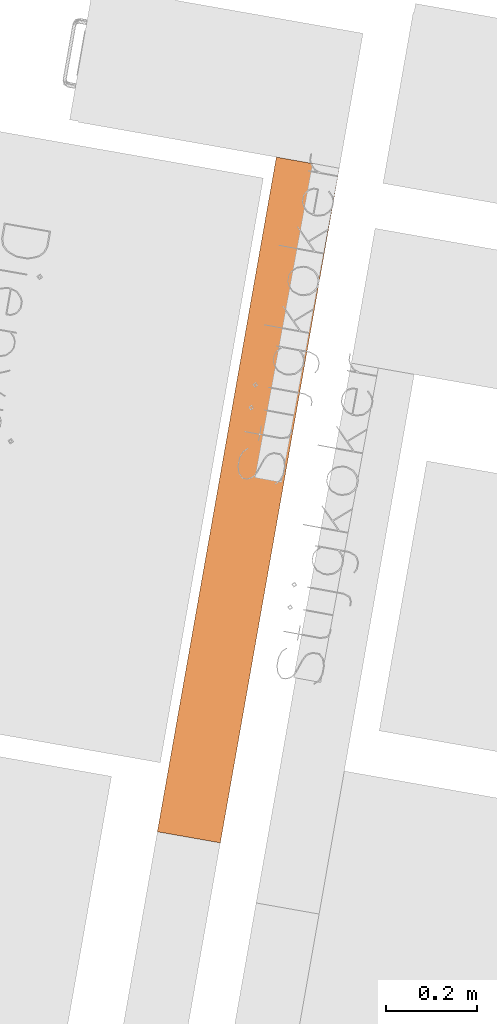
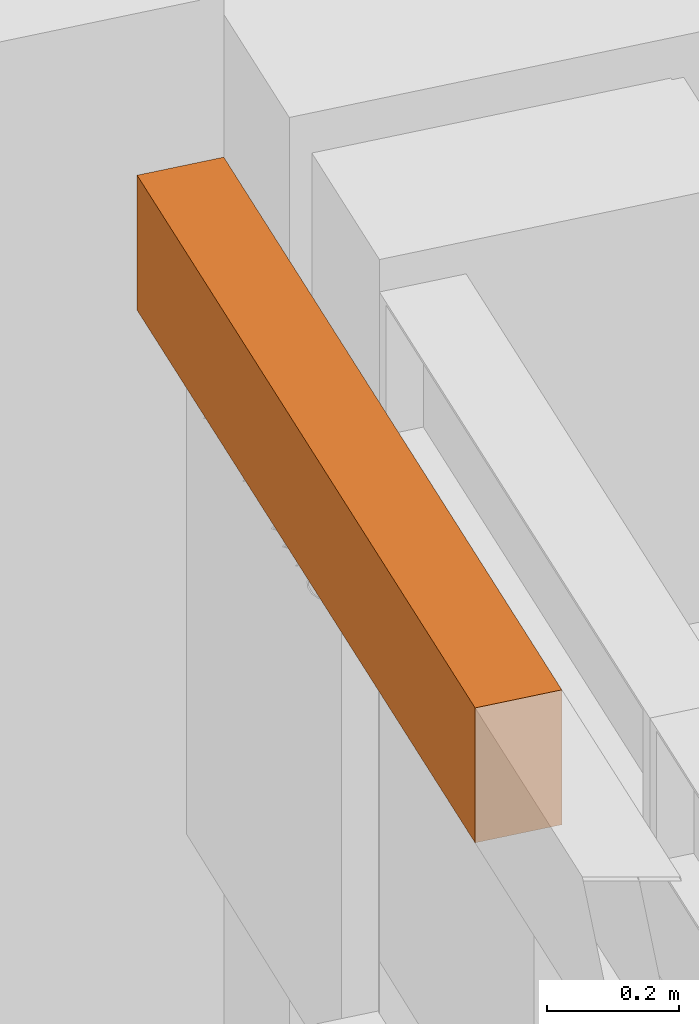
# One storey, part 17 of 43: 1 proxy.
"""IFC2X3 building model written with IfcOpenShell, lengths in metres."""

from ifc_helpers import new_model, entity, si_unit, converted_unit, derived_unit, direction, frame, frame_2d, origin, origin_2d_with_axis, place, context, subcontext, project, spatial, rectangle, extrude, source, transform, mapped, material, material_list, type_object, type_shapes, element, save


model = new_model("IFC2X3")

# Units and contexts
model_context = context("Model", 3, precision=1e-05, world=origin(), true_north=direction((6.12303176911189e-17, 1.0)))
body_context = subcontext(model_context, "Body", "Model", "MODEL_VIEW")
ifc_project = project(units=[si_unit("LENGTHUNIT", "METRE"), si_unit("AREAUNIT", "SQUARE_METRE"), si_unit("VOLUMEUNIT", "CUBIC_METRE"), converted_unit("PLANEANGLEUNIT", "DEGREE", entity("IfcRatioMeasure", 0.0174532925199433), si_unit("PLANEANGLEUNIT", "RADIAN"), dimensions=[0, 0, 0, 0, 0, 0, 0]), si_unit("MASSUNIT", "GRAM", prefix="KILO"), derived_unit("MASSDENSITYUNIT", [(si_unit("MASSUNIT", "GRAM", prefix="KILO"), 1), (si_unit("LENGTHUNIT", "METRE"), -3)]), derived_unit("MOMENTOFINERTIAUNIT", [(si_unit("LENGTHUNIT", "METRE"), 4)]), si_unit("TIMEUNIT", "SECOND"), si_unit("FREQUENCYUNIT", "HERTZ"), si_unit("THERMODYNAMICTEMPERATUREUNIT", "DEGREE_CELSIUS"), derived_unit("THERMALTRANSMITTANCEUNIT", [(si_unit("MASSUNIT", "GRAM", prefix="KILO"), 1), (si_unit("THERMODYNAMICTEMPERATUREUNIT", "KELVIN"), -1), (si_unit("TIMEUNIT", "SECOND"), -3)]), derived_unit("VOLUMETRICFLOWRATEUNIT", [(si_unit("LENGTHUNIT", "METRE"), 3), (si_unit("TIMEUNIT", "SECOND"), -1)]), si_unit("ELECTRICCURRENTUNIT", "AMPERE"), si_unit("ELECTRICVOLTAGEUNIT", "VOLT"), si_unit("POWERUNIT", "WATT"), si_unit("FORCEUNIT", "NEWTON", prefix="KILO"), si_unit("ILLUMINANCEUNIT", "LUX"), si_unit("LUMINOUSFLUXUNIT", "LUMEN"), si_unit("LUMINOUSINTENSITYUNIT", "CANDELA"), derived_unit("USERDEFINED", [(si_unit("MASSUNIT", "GRAM", prefix="KILO"), -1), (si_unit("LENGTHUNIT", "METRE"), -2), (si_unit("TIMEUNIT", "SECOND"), 3), (si_unit("LUMINOUSFLUXUNIT", "LUMEN"), 1)]), derived_unit("LINEARVELOCITYUNIT", [(si_unit("LENGTHUNIT", "METRE"), 1), (si_unit("TIMEUNIT", "SECOND"), -1)]), si_unit("PRESSUREUNIT", "PASCAL"), derived_unit("USERDEFINED", [(si_unit("LENGTHUNIT", "METRE"), -2), (si_unit("MASSUNIT", "GRAM", prefix="KILO"), 1), (si_unit("TIMEUNIT", "SECOND"), -2)]), derived_unit("LINEARFORCEUNIT", [(si_unit("MASSUNIT", "GRAM", prefix="KILO"), 1), (si_unit("LENGTHUNIT", "METRE"), 1), (si_unit("TIMEUNIT", "SECOND"), -2), (si_unit("LENGTHUNIT", "METRE"), -1)]), derived_unit("PLANARFORCEUNIT", [(si_unit("MASSUNIT", "GRAM", prefix="KILO"), 1), (si_unit("LENGTHUNIT", "METRE"), 1), (si_unit("TIMEUNIT", "SECOND"), -2), (si_unit("LENGTHUNIT", "METRE"), -2)])], contexts=[model_context])

# Site, building, storey
site_placement = place(None, origin())
site = spatial("IfcSite", under=ifc_project, at=site_placement, Name="Default", CompositionType="ELEMENT")
building_placement = place(site_placement, origin())
building = spatial("IfcBuilding", under=site, at=building_placement, CompositionType="ELEMENT")
storey_placement = place(building_placement, frame((0.0, 0.0, 3.0)))
storey = spatial("IfcBuildingStorey", under=building, at=storey_placement, Name="01 OG", CompositionType="ELEMENT", Elevation=3.0)

# Proxy
ifc_material_1 = material(Name="dh_EZ blau")
ifc_material_2 = material(Name="dh_Weiß")
ifc_material_list_1 = material_list([ifc_material_1, ifc_material_2])
ifc_material_3 = material(Name="dh_Blau")
ifc_material_list_2 = material_list([ifc_material_2, ifc_material_3, ifc_material_1])
building_element_proxy_type = type_object("IfcBuildingElementProxyType", Name="dh_Einzel_ MEK:MEK 150", PredefinedType="NOTDEFINED", material=ifc_material_list_2)
shared_shape = source(origin(), body_context, "Body", "SweptSolid", [
    extrude(rectangle(XDim=0.06, YDim=0.0299999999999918, at=origin_2d_with_axis()), frame((0.88500000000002, 0.33, 2.19499999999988), z_axis=(0.0, 0.0, 1.0), x_axis=(0.0, 1.0, 0.0)), (0.0, 0.0, 1.0), 0.240000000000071),
    extrude(rectangle(XDim=0.06, YDim=0.0299999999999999, at=origin_2d_with_axis()), frame((-0.584999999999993, 0.33, 2.19499999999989), z_axis=(0.0, 0.0, 1.0), x_axis=(0.0, 1.0, 0.0)), (0.0, 0.0, 1.0), 0.240000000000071),
    extrude(rectangle(XDim=0.06, YDim=1.50000000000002, at=origin_2d_with_axis()), frame((0.150000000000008, 0.33, 2.43499999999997), z_axis=(0.0, 0.0, 1.0), x_axis=(0.0, 1.0, 0.0)), (0.0, 0.0, 1.0), 0.00499999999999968),
    extrude(rectangle(XDim=1.50000000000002, YDim=0.14, at=frame_2d((-2.4980018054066e-15, -0.00333333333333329), x_axis=(1.0, 0.0))), frame((0.15000000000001, 0.293333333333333, 2.18999999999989)), (0.0, 0.0, 1.0), 0.00499999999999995),
    extrude(rectangle(XDim=0.08, YDim=1.50000000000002, at=frame_2d((0.0133333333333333, -1.11022302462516e-16), x_axis=(1.0, 0.0))), frame((0.150000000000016, 0.273333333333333, 2.43499999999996), z_axis=(0.0, 0.0, 1.0), x_axis=(0.0, -1.0, 0.0)), (0.0, 0.0, 1.0), 0.00500000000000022),
    extrude(rectangle(XDim=1.5, YDim=0.08, at=frame_2d((0.0, 3.46944695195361e-17), x_axis=(1.0, 0.0))), frame((0.15, 0.26, 2.195), z_axis=(0.0, 0.0, 1.0), x_axis=(-1.0, 0.0, 0.0)), (0.0, 0.0, 1.0), 0.239999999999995),
])
type_shapes(building_element_proxy_type, [shared_shape])
proxy_placement = place(storey_placement, frame((25.9126739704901, 11.3353815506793, 0.0), z_axis=(0.0, 0.0, 1.0), x_axis=(-0.173648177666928, -0.984807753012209, 0.0)))
element("IfcBuildingElementProxy", 1, at=proxy_placement, inside=storey, type_object=building_element_proxy_type, material=ifc_material_list_1, Name="dh_Einzel_ MEK:MEK 150", ObjectType="dh_Einzel_ MEK:MEK 150", context=body_context, shape_type="MappedRepresentation", body=[
    mapped(shared_shape, transform((0.0, 0.0, 0.0), scale=1.0)),
])

save(model, "model.ifc")
